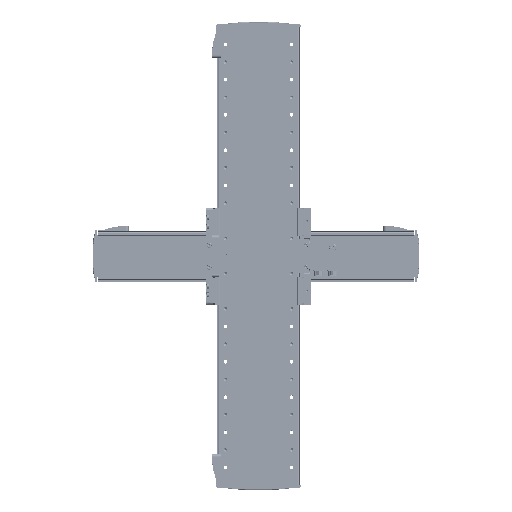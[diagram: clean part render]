
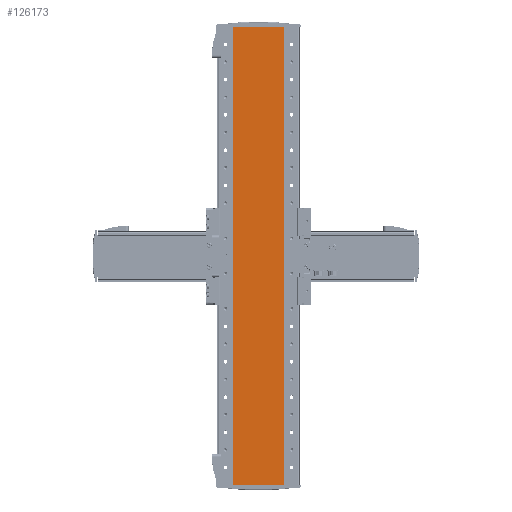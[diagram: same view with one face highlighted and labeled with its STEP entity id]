
A CAD part, front view. The second image highlights one B-rep face of the part: STEP entity #126173.
In plain terms, the highlighted planar face has unit normal (0, -1, 0).
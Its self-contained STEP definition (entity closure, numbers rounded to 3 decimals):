
#1764 = CARTESIAN_POINT ( 'NONE',  ( -29., 0.3, 260. ) ) ;
#2040 = VECTOR ( 'NONE', #67712, 1000. ) ;
#3107 = VERTEX_POINT ( 'NONE', #33369 ) ;
#10164 = EDGE_LOOP ( 'NONE', ( #58810, #16342, #70181, #61999 ) ) ;
#16342 = ORIENTED_EDGE ( 'NONE', *, *, #17172, .F. ) ;
#17172 = EDGE_CURVE ( 'NONE', #25979, #64333, #64056, .T. ) ;
#23409 = PLANE ( 'NONE',  #123911 ) ;
#25979 = VERTEX_POINT ( 'NONE', #116106 ) ;
#27492 = VECTOR ( 'NONE', #105028, 1000. ) ;
#29484 = EDGE_CURVE ( 'NONE', #86415, #3107, #85855, .T. ) ;
#33369 = CARTESIAN_POINT ( 'NONE',  ( 29., 0.3, 260. ) ) ;
#38976 = VECTOR ( 'NONE', #85205, 1000. ) ;
#46625 = CARTESIAN_POINT ( 'NONE',  ( 29., 0.3, -260. ) ) ;
#58810 = ORIENTED_EDGE ( 'NONE', *, *, #65506, .T. ) ;
#61999 = ORIENTED_EDGE ( 'NONE', *, *, #29484, .T. ) ;
#63744 = DIRECTION ( 'NONE',  ( 0., 1., 0. ) ) ;
#64056 = LINE ( 'NONE', #84614, #100435 ) ;
#64333 = VERTEX_POINT ( 'NONE', #108428 ) ;
#65506 = EDGE_CURVE ( 'NONE', #3107, #64333, #122973, .T. ) ;
#67712 = DIRECTION ( 'NONE',  ( -1., 0., 0. ) ) ;
#70181 = ORIENTED_EDGE ( 'NONE', *, *, #80674, .F. ) ;
#77635 = CARTESIAN_POINT ( 'NONE',  ( -29., 0.3, -260. ) ) ;
#80674 = EDGE_CURVE ( 'NONE', #86415, #25979, #97578, .T. ) ;
#84614 = CARTESIAN_POINT ( 'NONE',  ( -29., 0.3, -260. ) ) ;
#85205 = DIRECTION ( 'NONE',  ( 0., 0., 1. ) ) ;
#85855 = LINE ( 'NONE', #115698, #38976 ) ;
#86415 = VERTEX_POINT ( 'NONE', #46625 ) ;
#97578 = LINE ( 'NONE', #77635, #2040 ) ;
#100435 = VECTOR ( 'NONE', #125061, 1000. ) ;
#104169 = DIRECTION ( 'NONE',  ( 0., 0., 1. ) ) ;
#105028 = DIRECTION ( 'NONE',  ( -1., 0., 0. ) ) ;
#108428 = CARTESIAN_POINT ( 'NONE',  ( -29., 0.3, 260. ) ) ;
#113485 = FACE_OUTER_BOUND ( 'NONE', #10164, .T. ) ;
#115429 = CARTESIAN_POINT ( 'NONE',  ( -29., 0.3, -260. ) ) ;
#115698 = CARTESIAN_POINT ( 'NONE',  ( 29., 0.3, -260. ) ) ;
#116106 = CARTESIAN_POINT ( 'NONE',  ( -29., 0.3, -260. ) ) ;
#122973 = LINE ( 'NONE', #1764, #27492 ) ;
#123911 = AXIS2_PLACEMENT_3D ( 'NONE', #115429, #63744, #104169 ) ;
#125061 = DIRECTION ( 'NONE',  ( 0., 0., 1. ) ) ;
#126173 = ADVANCED_FACE ( 'NONE', ( #113485 ), #23409, .F. ) ;
